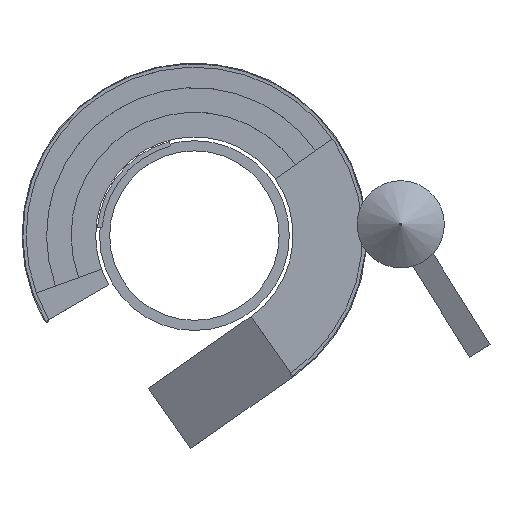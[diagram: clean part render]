
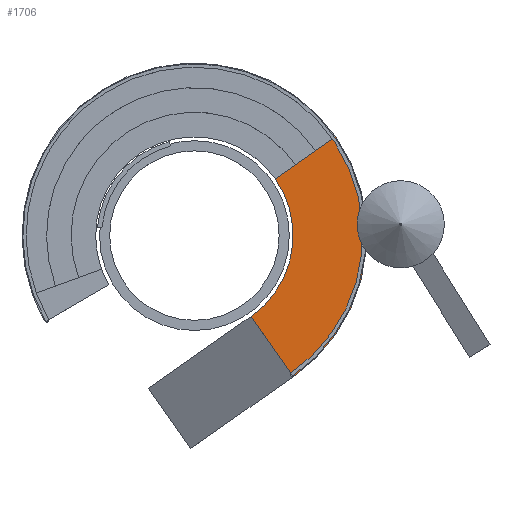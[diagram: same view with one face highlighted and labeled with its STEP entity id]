
A CAD part, top view. The second image highlights one B-rep face of the part: STEP entity #1706.
In plain terms, the highlighted planar face has unit normal (0, 0, 1).
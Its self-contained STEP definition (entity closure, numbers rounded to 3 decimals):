
#1443 = CYLINDRICAL_SURFACE('',#1444,4.211);
#1444 = AXIS2_PLACEMENT_3D('',#1445,#1446,#1447);
#1445 = CARTESIAN_POINT('',(-1.2,0.18,1.2));
#1446 = DIRECTION('',(-0.,-0.,-1.));
#1447 = DIRECTION('',(1.,0.,0.));
#1468 = VERTEX_POINT('',#1469);
#1469 = CARTESIAN_POINT('',(1.215,-3.27,1.5));
#1483 = PLANE('',#1484);
#1484 = AXIS2_PLACEMENT_3D('',#1485,#1486,#1487);
#1485 = CARTESIAN_POINT('',(-1.2,0.18,1.1));
#1486 = DIRECTION('',(0.819,0.574,-0.));
#1487 = DIRECTION('',(0.574,-0.819,0.));
#1495 = EDGE_CURVE('',#1496,#1468,#1498,.T.);
#1496 = VERTEX_POINT('',#1497);
#1497 = CARTESIAN_POINT('',(2.25,2.595,1.5));
#1498 = SURFACE_CURVE('',#1499,(#1504,#1511),.PCURVE_S1.);
#1499 = CIRCLE('',#1500,4.211);
#1500 = AXIS2_PLACEMENT_3D('',#1501,#1502,#1503);
#1501 = CARTESIAN_POINT('',(-1.2,0.18,1.5));
#1502 = DIRECTION('',(0.,0.,-1.));
#1503 = DIRECTION('',(0.819,0.574,0.));
#1504 = PCURVE('',#1443,#1505);
#1505 = DEFINITIONAL_REPRESENTATION('',(#1506),#1510);
#1506 = LINE('',#1507,#1508);
#1507 = CARTESIAN_POINT('',(-6.894,-0.3));
#1508 = VECTOR('',#1509,1.);
#1509 = DIRECTION('',(1.,-0.));
#1510 = ( GEOMETRIC_REPRESENTATION_CONTEXT(2) 
PARAMETRIC_REPRESENTATION_CONTEXT() REPRESENTATION_CONTEXT('2D SPACE',''
  ) );
#1511 = PCURVE('',#1512,#1517);
#1512 = PLANE('',#1513);
#1513 = AXIS2_PLACEMENT_3D('',#1514,#1515,#1516);
#1514 = CARTESIAN_POINT('',(-1.2,0.18,1.5));
#1515 = DIRECTION('',(0.,0.,1.));
#1516 = DIRECTION('',(1.,0.,-0.));
#1517 = DEFINITIONAL_REPRESENTATION('',(#1518),#1526);
#1518 = ( BOUNDED_CURVE() B_SPLINE_CURVE(2,(#1519,#1520,#1521,#1522,
#1523,#1524,#1525),.UNSPECIFIED.,.T.,.F.) B_SPLINE_CURVE_WITH_KNOTS((1,2
    ,2,2,2,1),(-2.094,0.,2.094,4.189,
6.283,8.378),.UNSPECIFIED.) CURVE() 
GEOMETRIC_REPRESENTATION_ITEM() RATIONAL_B_SPLINE_CURVE((1.,0.5,1.,0.5,
1.,0.5,1.)) REPRESENTATION_ITEM('') );
#1519 = CARTESIAN_POINT('',(3.45,2.415));
#1520 = CARTESIAN_POINT('',(7.633,-3.559));
#1521 = CARTESIAN_POINT('',(0.367,-4.195));
#1522 = CARTESIAN_POINT('',(-6.899,-4.831));
#1523 = CARTESIAN_POINT('',(-3.817,1.78));
#1524 = CARTESIAN_POINT('',(-0.734,8.39));
#1525 = CARTESIAN_POINT('',(3.45,2.415));
#1526 = ( GEOMETRIC_REPRESENTATION_CONTEXT(2) 
PARAMETRIC_REPRESENTATION_CONTEXT() REPRESENTATION_CONTEXT('2D SPACE',''
  ) );
#1542 = PLANE('',#1543);
#1543 = AXIS2_PLACEMENT_3D('',#1544,#1545,#1546);
#1544 = CARTESIAN_POINT('',(7.424,6.218,1.1));
#1545 = DIRECTION('',(0.574,-0.819,0.));
#1546 = DIRECTION('',(-0.819,-0.574,0.));
#1558 = EDGE_CURVE('',#1559,#1496,#1561,.T.);
#1559 = VERTEX_POINT('',#1560);
#1560 = CARTESIAN_POINT('',(0.775,1.563,1.5));
#1561 = SURFACE_CURVE('',#1562,(#1566,#1573),.PCURVE_S1.);
#1562 = LINE('',#1563,#1564);
#1563 = CARTESIAN_POINT('',(3.112,3.199,1.5));
#1564 = VECTOR('',#1565,1.);
#1565 = DIRECTION('',(0.819,0.574,-0.));
#1566 = PCURVE('',#1542,#1567);
#1567 = DEFINITIONAL_REPRESENTATION('',(#1568),#1572);
#1568 = LINE('',#1569,#1570);
#1569 = CARTESIAN_POINT('',(5.264,-0.4));
#1570 = VECTOR('',#1571,1.);
#1571 = DIRECTION('',(-1.,0.));
#1572 = ( GEOMETRIC_REPRESENTATION_CONTEXT(2) 
PARAMETRIC_REPRESENTATION_CONTEXT() REPRESENTATION_CONTEXT('2D SPACE',''
  ) );
#1573 = PCURVE('',#1512,#1574);
#1574 = DEFINITIONAL_REPRESENTATION('',(#1575),#1579);
#1575 = LINE('',#1576,#1577);
#1576 = CARTESIAN_POINT('',(4.312,3.019));
#1577 = VECTOR('',#1578,1.);
#1578 = DIRECTION('',(0.819,0.574));
#1579 = ( GEOMETRIC_REPRESENTATION_CONTEXT(2) 
PARAMETRIC_REPRESENTATION_CONTEXT() REPRESENTATION_CONTEXT('2D SPACE',''
  ) );
#1597 = CYLINDRICAL_SURFACE('',#1598,2.411);
#1598 = AXIS2_PLACEMENT_3D('',#1599,#1600,#1601);
#1599 = CARTESIAN_POINT('',(-1.2,0.18,1.2));
#1600 = DIRECTION('',(-0.,-0.,-1.));
#1601 = DIRECTION('',(1.,0.,0.));
#1633 = EDGE_CURVE('',#1559,#1634,#1636,.T.);
#1634 = VERTEX_POINT('',#1635);
#1635 = CARTESIAN_POINT('',(0.183,-1.795,1.5));
#1636 = SURFACE_CURVE('',#1637,(#1642,#1649),.PCURVE_S1.);
#1637 = CIRCLE('',#1638,2.411);
#1638 = AXIS2_PLACEMENT_3D('',#1639,#1640,#1641);
#1639 = CARTESIAN_POINT('',(-1.2,0.18,1.5));
#1640 = DIRECTION('',(0.,0.,-1.));
#1641 = DIRECTION('',(0.819,0.574,0.));
#1642 = PCURVE('',#1597,#1643);
#1643 = DEFINITIONAL_REPRESENTATION('',(#1644),#1648);
#1644 = LINE('',#1645,#1646);
#1645 = CARTESIAN_POINT('',(-6.894,-0.3));
#1646 = VECTOR('',#1647,1.);
#1647 = DIRECTION('',(1.,-0.));
#1648 = ( GEOMETRIC_REPRESENTATION_CONTEXT(2) 
PARAMETRIC_REPRESENTATION_CONTEXT() REPRESENTATION_CONTEXT('2D SPACE',''
  ) );
#1649 = PCURVE('',#1512,#1650);
#1650 = DEFINITIONAL_REPRESENTATION('',(#1651),#1659);
#1651 = ( BOUNDED_CURVE() B_SPLINE_CURVE(2,(#1652,#1653,#1654,#1655,
#1656,#1657,#1658),.UNSPECIFIED.,.T.,.F.) B_SPLINE_CURVE_WITH_KNOTS((1,2
    ,2,2,2,1),(-2.094,0.,2.094,4.189,
6.283,8.378),.UNSPECIFIED.) CURVE() 
GEOMETRIC_REPRESENTATION_ITEM() RATIONAL_B_SPLINE_CURVE((1.,0.5,1.,0.5,
1.,0.5,1.)) REPRESENTATION_ITEM('') );
#1652 = CARTESIAN_POINT('',(1.975,1.383));
#1653 = CARTESIAN_POINT('',(4.37,-2.038));
#1654 = CARTESIAN_POINT('',(0.21,-2.402));
#1655 = CARTESIAN_POINT('',(-3.95,-2.766));
#1656 = CARTESIAN_POINT('',(-2.185,1.019));
#1657 = CARTESIAN_POINT('',(-0.42,4.804));
#1658 = CARTESIAN_POINT('',(1.975,1.383));
#1659 = ( GEOMETRIC_REPRESENTATION_CONTEXT(2) 
PARAMETRIC_REPRESENTATION_CONTEXT() REPRESENTATION_CONTEXT('2D SPACE',''
  ) );
#1706 = ADVANCED_FACE('',(#1707),#1512,.T.);
#1707 = FACE_BOUND('',#1708,.T.);
#1708 = EDGE_LOOP('',(#1709,#1730,#1731,#1732));
#1709 = ORIENTED_EDGE('',*,*,#1710,.F.);
#1710 = EDGE_CURVE('',#1468,#1634,#1711,.T.);
#1711 = SURFACE_CURVE('',#1712,(#1716,#1723),.PCURVE_S1.);
#1712 = LINE('',#1713,#1714);
#1713 = CARTESIAN_POINT('',(-1.2,0.18,1.5));
#1714 = VECTOR('',#1715,1.);
#1715 = DIRECTION('',(-0.574,0.819,0.));
#1716 = PCURVE('',#1512,#1717);
#1717 = DEFINITIONAL_REPRESENTATION('',(#1718),#1722);
#1718 = LINE('',#1719,#1720);
#1719 = CARTESIAN_POINT('',(0.,0.));
#1720 = VECTOR('',#1721,1.);
#1721 = DIRECTION('',(-0.574,0.819));
#1722 = ( GEOMETRIC_REPRESENTATION_CONTEXT(2) 
PARAMETRIC_REPRESENTATION_CONTEXT() REPRESENTATION_CONTEXT('2D SPACE',''
  ) );
#1723 = PCURVE('',#1483,#1724);
#1724 = DEFINITIONAL_REPRESENTATION('',(#1725),#1729);
#1725 = LINE('',#1726,#1727);
#1726 = CARTESIAN_POINT('',(0.,-0.4));
#1727 = VECTOR('',#1728,1.);
#1728 = DIRECTION('',(-1.,-0.));
#1729 = ( GEOMETRIC_REPRESENTATION_CONTEXT(2) 
PARAMETRIC_REPRESENTATION_CONTEXT() REPRESENTATION_CONTEXT('2D SPACE',''
  ) );
#1730 = ORIENTED_EDGE('',*,*,#1495,.F.);
#1731 = ORIENTED_EDGE('',*,*,#1558,.F.);
#1732 = ORIENTED_EDGE('',*,*,#1633,.T.);
